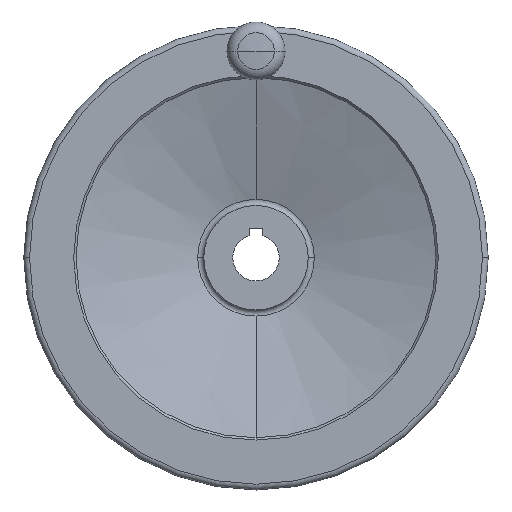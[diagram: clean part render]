
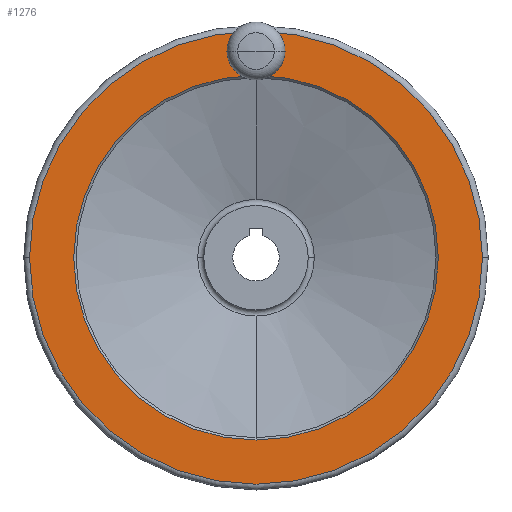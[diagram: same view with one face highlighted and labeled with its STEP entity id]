
A CAD part, left-side view. The second image highlights one B-rep face of the part: STEP entity #1276.
In plain terms, the highlighted planar face has unit normal (-1, 0, 0).
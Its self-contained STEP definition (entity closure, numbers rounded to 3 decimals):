
#5 = CARTESIAN_POINT ( 'NONE',  ( -141., 63., -69.5 ) ) ;
#31 = CARTESIAN_POINT ( 'NONE',  ( -141., 63., 9. ) ) ;
#78 = EDGE_CURVE ( 'NONE', #1196, #1459, #1889, .T. ) ;
#99 = DIRECTION ( 'NONE',  ( 0., -1., 0. ) ) ;
#138 = CARTESIAN_POINT ( 'NONE',  ( -141., 63., 98. ) ) ;
#144 = EDGE_LOOP ( 'NONE', ( #1862, #998 ) ) ;
#159 = AXIS2_PLACEMENT_3D ( 'NONE', #169, #1178, #1735 ) ;
#169 = CARTESIAN_POINT ( 'NONE',  ( -141., 63., 98. ) ) ;
#191 = CIRCLE ( 'NONE', #1468, 78.5 ) ;
#215 = PLANE ( 'NONE',  #2092 ) ;
#267 = ORIENTED_EDGE ( 'NONE', *, *, #78, .T. ) ;
#342 = DIRECTION ( 'NONE',  ( 0., -1., 0. ) ) ;
#382 = DIRECTION ( 'NONE',  ( -1., 0., 0. ) ) ;
#384 = FACE_BOUND ( 'NONE', #672, .T. ) ;
#390 = FACE_BOUND ( 'NONE', #144, .T. ) ;
#394 = DIRECTION ( 'NONE',  ( -1., 0., 0. ) ) ;
#401 = AXIS2_PLACEMENT_3D ( 'NONE', #891, #382, #700 ) ;
#492 = AXIS2_PLACEMENT_3D ( 'NONE', #1002, #2171, #99 ) ;
#522 = EDGE_CURVE ( 'NONE', #1622, #795, #2136, .T. ) ;
#672 = EDGE_LOOP ( 'NONE', ( #1730, #2045 ) ) ;
#700 = DIRECTION ( 'NONE',  ( 0., -1., 0. ) ) ;
#708 = CARTESIAN_POINT ( 'NONE',  ( -141., 63., 9. ) ) ;
#795 = VERTEX_POINT ( 'NONE', #1587 ) ;
#831 = CARTESIAN_POINT ( 'NONE',  ( -141., 160.5, 9. ) ) ;
#853 = CARTESIAN_POINT ( 'NONE',  ( -141., 63., -69.5 ) ) ;
#858 = ORIENTED_EDGE ( 'NONE', *, *, #1859, .T. ) ;
#891 = CARTESIAN_POINT ( 'NONE',  ( -141., 63., 9. ) ) ;
#904 = DIRECTION ( 'NONE',  ( -1., 0., 0. ) ) ;
#962 = CIRCLE ( 'NONE', #159, 5. ) ;
#998 = ORIENTED_EDGE ( 'NONE', *, *, #522, .T. ) ;
#1002 = CARTESIAN_POINT ( 'NONE',  ( -141., 63., 9. ) ) ;
#1064 = DIRECTION ( 'NONE',  ( -1., 0., 0. ) ) ;
#1074 = FACE_OUTER_BOUND ( 'NONE', #2157, .T. ) ;
#1178 = DIRECTION ( 'NONE',  ( 1., 0., 0. ) ) ;
#1189 = VERTEX_POINT ( 'NONE', #853 ) ;
#1196 = VERTEX_POINT ( 'NONE', #831 ) ;
#1205 = DIRECTION ( 'NONE',  ( 1., 0., 0. ) ) ;
#1276 = ADVANCED_FACE ( 'NONE', ( #384, #390, #1074 ), #215, .T. ) ;
#1294 = CARTESIAN_POINT ( 'NONE',  ( -141., -34.5, 9. ) ) ;
#1327 = CIRCLE ( 'NONE', #401, 97.5 ) ;
#1329 = VERTEX_POINT ( 'NONE', #1948 ) ;
#1372 = DIRECTION ( 'NONE',  ( 0., -1., 0. ) ) ;
#1459 = VERTEX_POINT ( 'NONE', #1294 ) ;
#1468 = AXIS2_PLACEMENT_3D ( 'NONE', #708, #1064, #1372 ) ;
#1587 = CARTESIAN_POINT ( 'NONE',  ( -141., 58., 98. ) ) ;
#1622 = VERTEX_POINT ( 'NONE', #1921 ) ;
#1625 = EDGE_CURVE ( 'NONE', #795, #1622, #962, .T. ) ;
#1640 = DIRECTION ( 'NONE',  ( 0., 0., 1. ) ) ;
#1730 = ORIENTED_EDGE ( 'NONE', *, *, #2241, .F. ) ;
#1735 = DIRECTION ( 'NONE',  ( 0., -1., 0. ) ) ;
#1808 = AXIS2_PLACEMENT_3D ( 'NONE', #31, #394, #1849 ) ;
#1849 = DIRECTION ( 'NONE',  ( 0., -1., 0. ) ) ;
#1859 = EDGE_CURVE ( 'NONE', #1459, #1196, #1327, .T. ) ;
#1862 = ORIENTED_EDGE ( 'NONE', *, *, #1625, .T. ) ;
#1889 = CIRCLE ( 'NONE', #492, 97.5 ) ;
#1921 = CARTESIAN_POINT ( 'NONE',  ( -141., 68., 98. ) ) ;
#1948 = CARTESIAN_POINT ( 'NONE',  ( -141., 63., 87.5 ) ) ;
#2024 = CIRCLE ( 'NONE', #1808, 78.5 ) ;
#2038 = AXIS2_PLACEMENT_3D ( 'NONE', #138, #1205, #342 ) ;
#2045 = ORIENTED_EDGE ( 'NONE', *, *, #2066, .F. ) ;
#2066 = EDGE_CURVE ( 'NONE', #1329, #1189, #191, .T. ) ;
#2092 = AXIS2_PLACEMENT_3D ( 'NONE', #5, #904, #1640 ) ;
#2136 = CIRCLE ( 'NONE', #2038, 5. ) ;
#2157 = EDGE_LOOP ( 'NONE', ( #858, #267 ) ) ;
#2171 = DIRECTION ( 'NONE',  ( -1., 0., 0. ) ) ;
#2241 = EDGE_CURVE ( 'NONE', #1189, #1329, #2024, .T. ) ;
